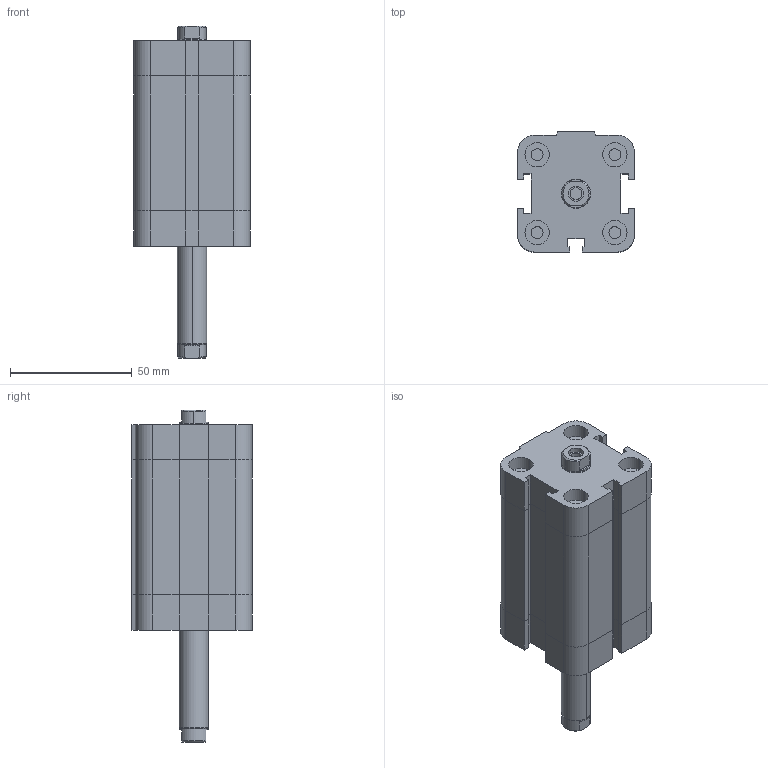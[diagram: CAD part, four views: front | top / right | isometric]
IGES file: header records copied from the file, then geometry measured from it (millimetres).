
Global section: file name: No Iges File Name specified; native system: Autodesk Inventor 2009; preprocessor: AutoDesk Inventor Iges Exporter R2009; author: maffial1; date: 20090420.200529; units: millimetre
Bounding box: 48 x 49.5 x 136.5 mm (x, y, z)
Volume: 175993.3 mm3; surface area: 36042.2 mm2
Topology: 2 solids, 2 shells, 202 faces, 450 edges, 274 vertices
Faces by surface type: plane 114, bspline 42, revolution 20, cylinder 18, cone 8
